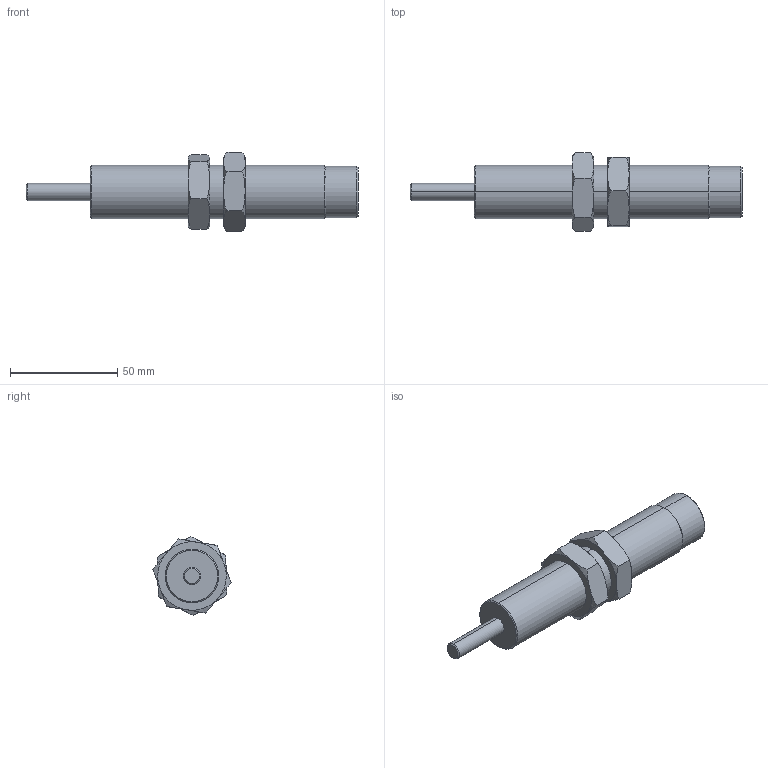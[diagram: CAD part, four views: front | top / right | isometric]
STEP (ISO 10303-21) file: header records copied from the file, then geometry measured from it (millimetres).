
FILE_DESCRIPTION (( 'STEP AP203' ), '1' );
FILE_NAME ('FSA-2530BB(CC)(CD).STEP', '2016-03-17T07:46:41', ( 'Sam Lin' ), ( '' ), 'SwSTEP 2.0', 'SolidWorks 2013', '' );
FILE_SCHEMA (( 'CONFIG_CONTROL_DESIGN' ));
Length unit declared in the file: metre
Products named in the file (3): M25x1.5-10mm_1; FSA-2530BB(CC)(CD); FSA-2530BB(CC)(CD)_1
Assembly tree (3 placements, depth 2):
  FSA-2530BB(CC)(CD)
    FSA-2530BB(CC)(CD)_1
    M25x1.5-10mm_1  x2
Bounding box: 155 x 36.43 x 36.94 mm (x, y, z)
Volume: 70078 mm3; surface area: 16666.5 mm2
Topology: 3 solids, 3 shells, 61 faces, 128 edges, 74 vertices
Faces by surface type: bspline 24, plane 19, cylinder 10, cone 8
Entity records: 1665 total; most frequent: CARTESIAN_POINT 627, ORIENTED_EDGE 160, DIRECTION 132, EDGE_CURVE 80, AXIS2_PLACEMENT_3D 55, VERTEX_POINT 46, EDGE_LOOP 42, FACE_OUTER_BOUND 39
